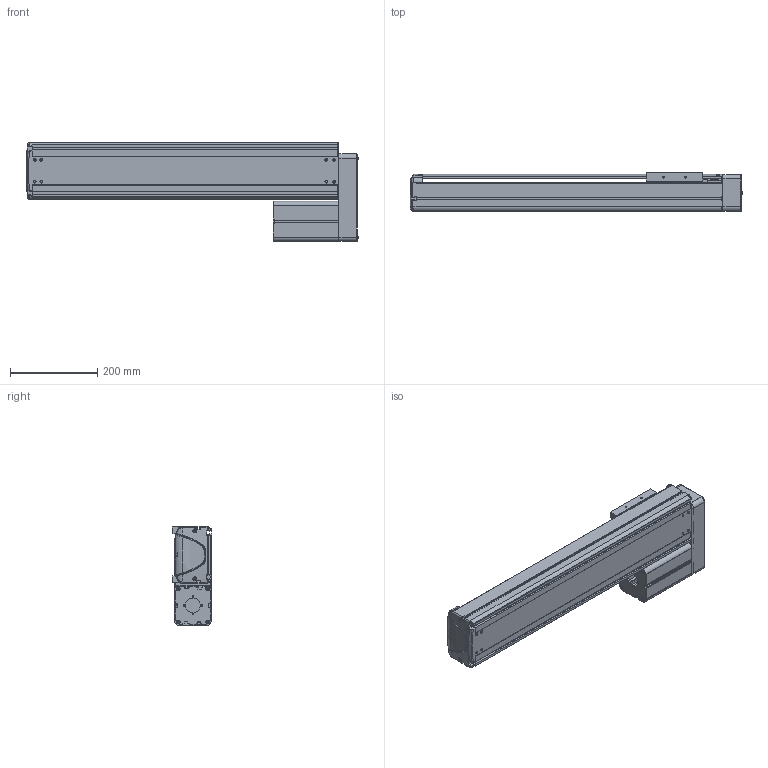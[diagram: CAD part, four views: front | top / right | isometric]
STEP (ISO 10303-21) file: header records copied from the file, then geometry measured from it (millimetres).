
FILE_DESCRIPTION((''),'2;1');
FILE_NAME('BE30E-UL-M_N-50_IGS_PRT','2017-06-17T',(' '),(''),'PRO/ENGINEER BY PARAMETRIC TECHNOLOGY CORPORATION, 2015030','PRO/ENGINEER BY PARAMETRIC TECHNOLOGY CORPORATION, 2015030','');
FILE_SCHEMA(('CONFIG_CONTROL_DESIGN'));
Products named in the file (1): BE30E-UL-M_N-50_IGS_PRT
Bounding box: 761.9 x 89.8 x 227 mm (x, y, z)
Volume: 2764942.1 mm3; surface area: 1178006.5 mm2
Topology: 2 solids, 112 shells, 1987 faces, 5335 edges, 3460 vertices
Faces by surface type: plane 992, cylinder 801, cone 103, torus 39, bspline 28, sphere 24
Entity records: 64112 total; most frequent: CARTESIAN_POINT 13507, DIRECTION 10703, ORIENTED_EDGE 10178, EDGE_CURVE 5297, AXIS2_PLACEMENT_3D 3752, VERTEX_POINT 3460, VECTOR 3199, LINE 3199
